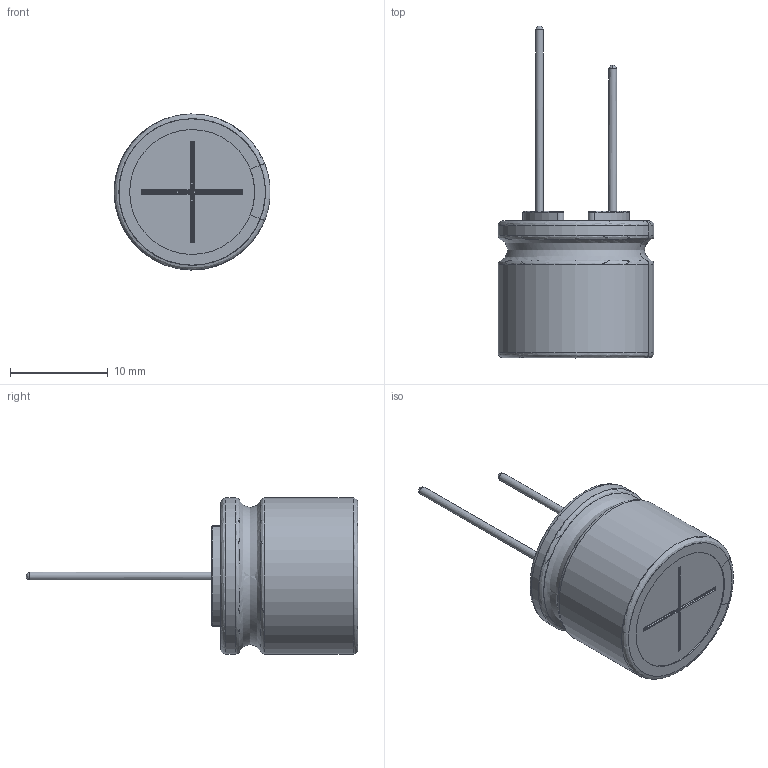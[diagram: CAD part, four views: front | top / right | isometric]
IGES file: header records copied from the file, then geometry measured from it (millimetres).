
Start section: JAMA-IS VERSION  1.0
Bounding box: 15.98 x 34 x 16 mm (x, y, z)
Surface area: 2949 mm2 (no closed solid volume)
Topology: 0 solids, 0 shells, 132 faces, 1511 edges, 1492 vertices
Faces by surface type: bspline 132
